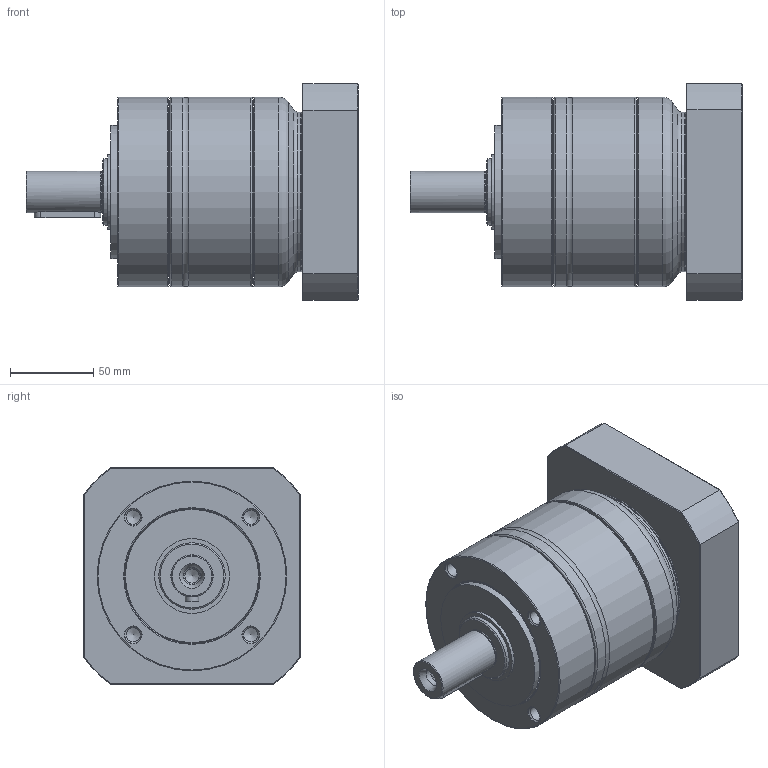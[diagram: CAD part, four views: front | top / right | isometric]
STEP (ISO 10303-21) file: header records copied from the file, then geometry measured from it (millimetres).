
FILE_DESCRIPTION(/* description */ (''),/* implementation_level */ '2;1');
FILE_NAME(/* name */ 'C:\STORE\ホームページ用データ\\X2\6E1B901F6A5F\X0\_2016_2016.10.19_カタログ改訂分\3D_STEP\PG2_120-XXX_500W_1kW_1.5kW.stp',/* time_stamp */ '2016-10-19T17:26:42+09:00',/* author */ ('jp0tot'),/* organization */ (''),/* preprocessor_version */ 'ST-DEVELOPER v15.6',/* originating_system */ 'Autodesk Inventor 2015',/* authorisation */ '');
FILE_SCHEMA (('AUTOMOTIVE_DESIGN { 1 0 10303 214 3 1 1 }'));
Length unit declared in the file: millimetre
Products named in the file (1): PG2_120-005_500W_1kW_1.5kW
Bounding box: 199.5 x 130 x 130 mm (x, y, z)
Volume: 1141905.5 mm3; surface area: 234173.2 mm2
Topology: 8 solids, 22 shells, 292 faces, 632 edges, 400 vertices
Faces by surface type: cylinder 86, plane 84, cone 74, torus 44, bspline 4
Full cylindrical faces by diameter (mm): 4.2 x4, 5 x4, 6.8 x5, 8 x5, 8.5 x5, 9 x1, 9.2 x1, 10 x5, 10.5 x1, 10.6 x1, 12.4 x1, 14 x2, 23 x1, 24 x1, 24.6 x1, 25 x2, 28 x1, 35 x1, 36 x1, 40 x2, 45 x1, 47 x4, 50 x3, 65 x1, 66.5 x1, 72 x2, 74 x2, 75 x1, 80 x4, 80.5 x1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
Entity records: 7185 total; most frequent: CARTESIAN_POINT 1785, DIRECTION 1196, ORIENTED_EDGE 743, AXIS2_PLACEMENT_3D 572, EDGE_LOOP 536, EDGE_CURVE 386, VERTEX_POINT 338, FACE_OUTER_BOUND 292
